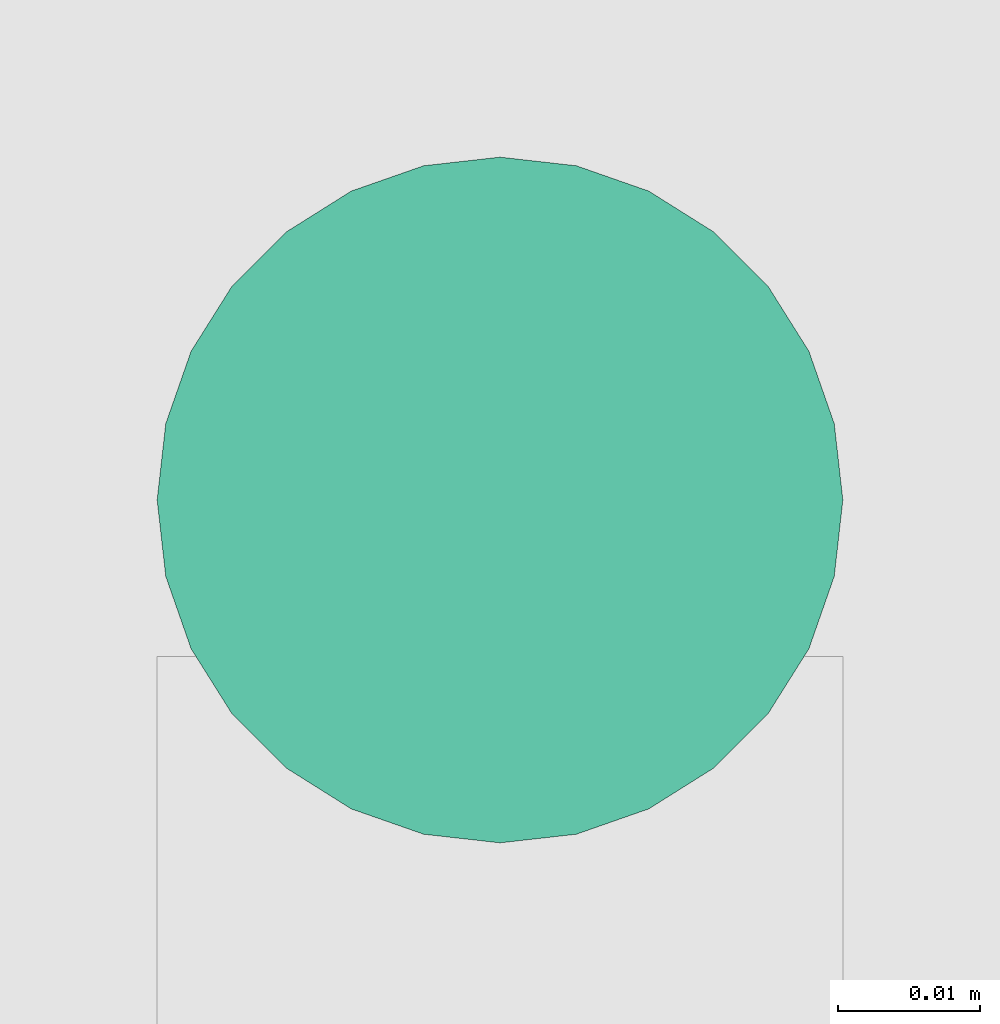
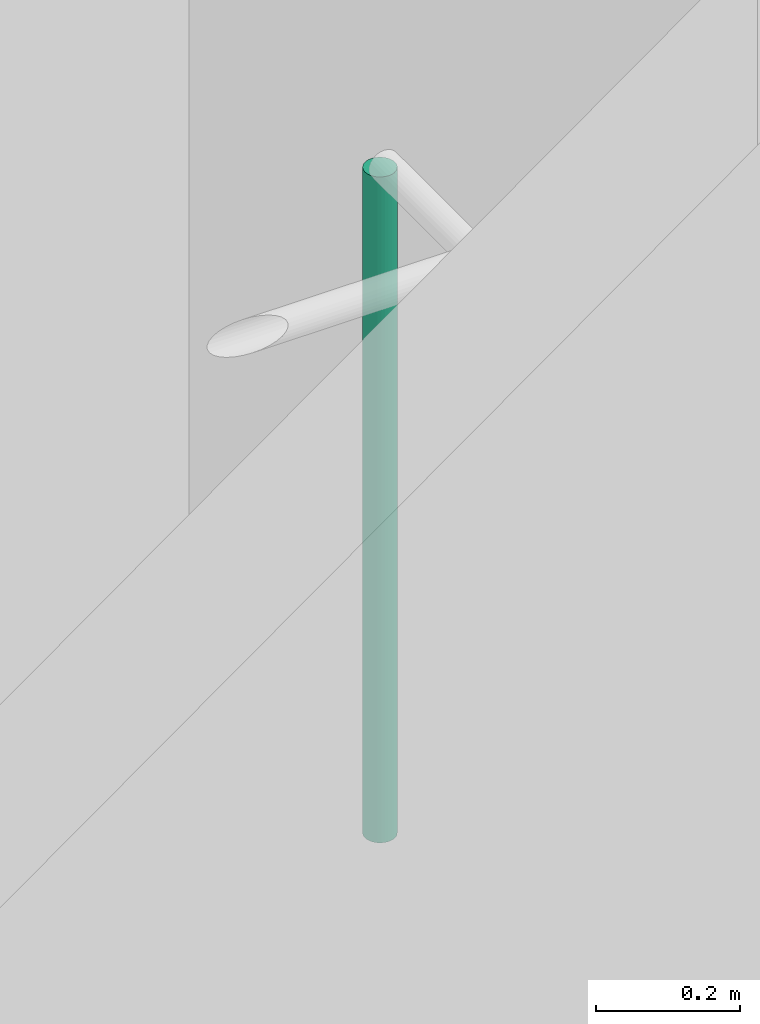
# One storey, part 22 of 72: 1 pipe segment.
"""IFC4 building model written with IfcOpenShell, lengths in centimetres."""

from ifc_helpers import new_model, entity, si_unit, converted_unit, derived_unit, direction, frame, origin, place, context, subcontext, project, spatial, arc, indexed_curve, outline, extrude, type_object, element, save


model = new_model("IFC4")

# Units and contexts
model_context = context("Model", 3, precision=0.001, world=origin(), true_north=direction((6.123233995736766e-17, 1.0)))
body_context = subcontext(model_context, "Body", "Model", "MODEL_VIEW")
ifc_project = project(units=[si_unit("LENGTHUNIT", "METRE", prefix="CENTI"), si_unit("AREAUNIT", "SQUARE_METRE"), si_unit("VOLUMEUNIT", "CUBIC_METRE"), derived_unit("THERMALTRANSMITTANCEUNIT", [(si_unit("MASSUNIT", "GRAM", prefix="KILO"), 1), (si_unit("THERMODYNAMICTEMPERATUREUNIT", "KELVIN"), -1), (si_unit("TIMEUNIT", "SECOND"), -3)]), converted_unit("PLANEANGLEUNIT", "DEGREE", entity("IfcPlaneAngleMeasure", 0.017453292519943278), si_unit("PLANEANGLEUNIT", "RADIAN"), dimensions=[0, 0, 0, 0, 0, 0, 0]), derived_unit("MASSDENSITYUNIT", [(si_unit("MASSUNIT", "GRAM", prefix="KILO"), 1), (si_unit("LENGTHUNIT", "METRE"), -3)]), derived_unit("VAPORPERMEABILITYUNIT", [(si_unit("LENGTHUNIT", "METRE"), -1), (si_unit("TIMEUNIT", "SECOND"), 1)]), derived_unit("USERDEFINED", [(si_unit("MASSUNIT", "GRAM", prefix="KILO"), 1), (si_unit("TIMEUNIT", "SECOND"), -3), (si_unit("LENGTHUNIT", "METRE"), 3), (si_unit("ELECTRICCURRENTUNIT", "AMPERE"), -2)]), derived_unit("SPECIFICHEATCAPACITYUNIT", [(si_unit("THERMODYNAMICTEMPERATUREUNIT", "KELVIN"), -1), (si_unit("LENGTHUNIT", "METRE"), 2), (si_unit("TIMEUNIT", "SECOND"), -2)]), derived_unit("THERMALCONDUCTANCEUNIT", [(si_unit("MASSUNIT", "GRAM", prefix="KILO"), 1), (si_unit("THERMODYNAMICTEMPERATUREUNIT", "KELVIN"), -1), (si_unit("TIMEUNIT", "SECOND"), -3), (si_unit("LENGTHUNIT", "METRE"), 1)]), si_unit("PRESSUREUNIT", "PASCAL"), derived_unit("MODULUSOFELASTICITYUNIT", [(si_unit("MASSUNIT", "GRAM", prefix="KILO"), 1), (si_unit("LENGTHUNIT", "METRE"), -1), (si_unit("TIMEUNIT", "SECOND"), -2)]), derived_unit("THERMALEXPANSIONCOEFFICIENTUNIT", [(si_unit("THERMODYNAMICTEMPERATUREUNIT", "KELVIN"), -1)])], contexts=[model_context])

# Site, building, storey
site_placement = place(None, origin())
site = spatial("IfcSite", under=ifc_project, at=site_placement, Name="Default", CompositionType="ELEMENT")
building_placement = place(site_placement, origin())
building = spatial("IfcBuilding", under=site, at=building_placement, Name="IDS Escape Game Building", CompositionType="ELEMENT")
storey_placement = place(building_placement, frame((0.0, 0.0, 800.0)))
storey = spatial("IfcBuildingStorey", under=building, at=storey_placement, Name="02_Second Floor", CompositionType="ELEMENT", Elevation=800.0)

# Pipe segment
pipe_segment_type = type_object("IfcPipeSegmentType", Name="Pipe Types:Piping Aluminum", PredefinedType="NOTDEFINED")
pipe_segment_placement = place(storey_placement, origin())
element("IfcPipeSegment", 1, at=pipe_segment_placement, inside=storey, type_object=pipe_segment_type, Name="Pipe Types:Piping Aluminum", ObjectType="Pipe Types:Piping Aluminum", PredefinedType="NOTDEFINED", context=body_context, shape_type="SweptSolid", body=[
    extrude(outline(indexed_curve([(2.412999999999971, 0.0), (1.7062486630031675, 1.7062486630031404), (0.0, 2.412999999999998), (-1.7062486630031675, 1.7062486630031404), (-2.412999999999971, 6.767919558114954e-15), (-1.7062486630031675, -1.7062486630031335), (0.0, -2.412999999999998), (1.7062486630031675, -1.706248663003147)], segments=[arc(1, 2, 3), arc(3, 4, 5), arc(5, 6, 7), arc(7, 8, 1)], self_intersect=False)), frame((2326.150000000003, 48.90000000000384, 128.0), z_axis=(0.0, 0.0, 1.0), x_axis=(-1.0, 0.0, 0.0)), (0.0, 0.0, 1.0), 112.90000000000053),
])

save(model, "model.ifc")
